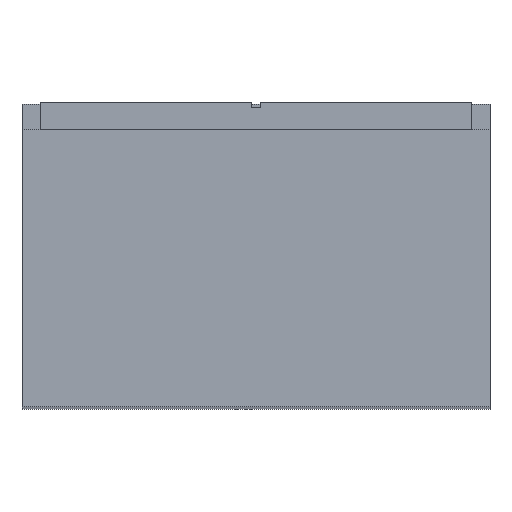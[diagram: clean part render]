
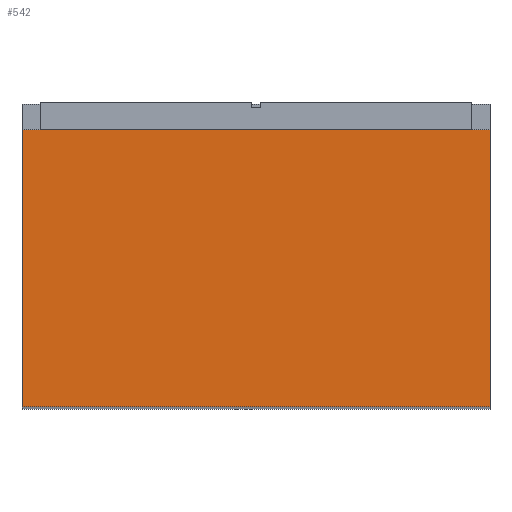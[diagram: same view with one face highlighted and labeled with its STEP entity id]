
A CAD part, top view. The second image highlights one B-rep face of the part: STEP entity #542.
In plain terms, the highlighted planar face has unit normal (0, 0, 1).
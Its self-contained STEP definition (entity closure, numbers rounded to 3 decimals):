
#68=LINE('',#841,#134);
#73=LINE('',#851,#139);
#78=LINE('',#860,#144);
#80=LINE('',#864,#146);
#134=VECTOR('',#691,10.);
#139=VECTOR('',#700,10.);
#144=VECTOR('',#707,10.);
#146=VECTOR('',#713,10.);
#172=PLANE('',#578);
#208=FACE_OUTER_BOUND('',#243,.T.);
#243=EDGE_LOOP('',(#504,#505,#506,#507));
#292=VERTEX_POINT('',#838);
#293=VERTEX_POINT('',#840);
#296=VERTEX_POINT('',#850);
#299=VERTEX_POINT('',#858);
#358=EDGE_CURVE('',#293,#292,#68,.T.);
#363=EDGE_CURVE('',#296,#293,#73,.T.);
#368=EDGE_CURVE('',#299,#292,#78,.T.);
#370=EDGE_CURVE('',#299,#296,#80,.T.);
#504=ORIENTED_EDGE('',*,*,#358,.T.);
#505=ORIENTED_EDGE('',*,*,#368,.F.);
#506=ORIENTED_EDGE('',*,*,#370,.T.);
#507=ORIENTED_EDGE('',*,*,#363,.T.);
#542=ADVANCED_FACE('',(#208),#172,.T.);
#578=AXIS2_PLACEMENT_3D('',#863,#711,#712);
#691=DIRECTION('',(-1.,0.,0.));
#700=DIRECTION('',(0.,1.,0.));
#707=DIRECTION('',(0.,1.,0.));
#711=DIRECTION('center_axis',(0.,0.,1.));
#712=DIRECTION('ref_axis',(1.,0.,0.));
#713=DIRECTION('',(1.,0.,0.));
#838=CARTESIAN_POINT('',(-5.15,6.1,15.25));
#840=CARTESIAN_POINT('',(5.15,6.1,15.25));
#841=CARTESIAN_POINT('',(-2.575,6.1,15.25));
#850=CARTESIAN_POINT('',(5.15,0.,15.25));
#851=CARTESIAN_POINT('',(5.15,0.,15.25));
#858=CARTESIAN_POINT('',(-5.15,0.,15.25));
#860=CARTESIAN_POINT('',(-5.15,0.,15.25));
#863=CARTESIAN_POINT('Origin',(-5.15,0.,15.25));
#864=CARTESIAN_POINT('',(-5.15,0.,15.25));
